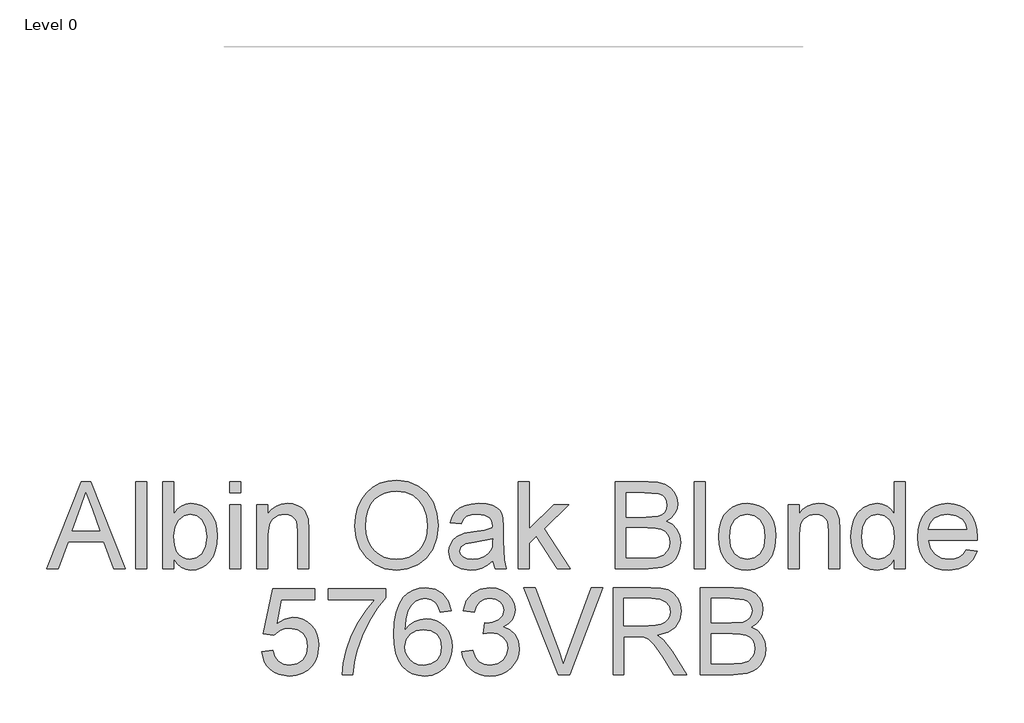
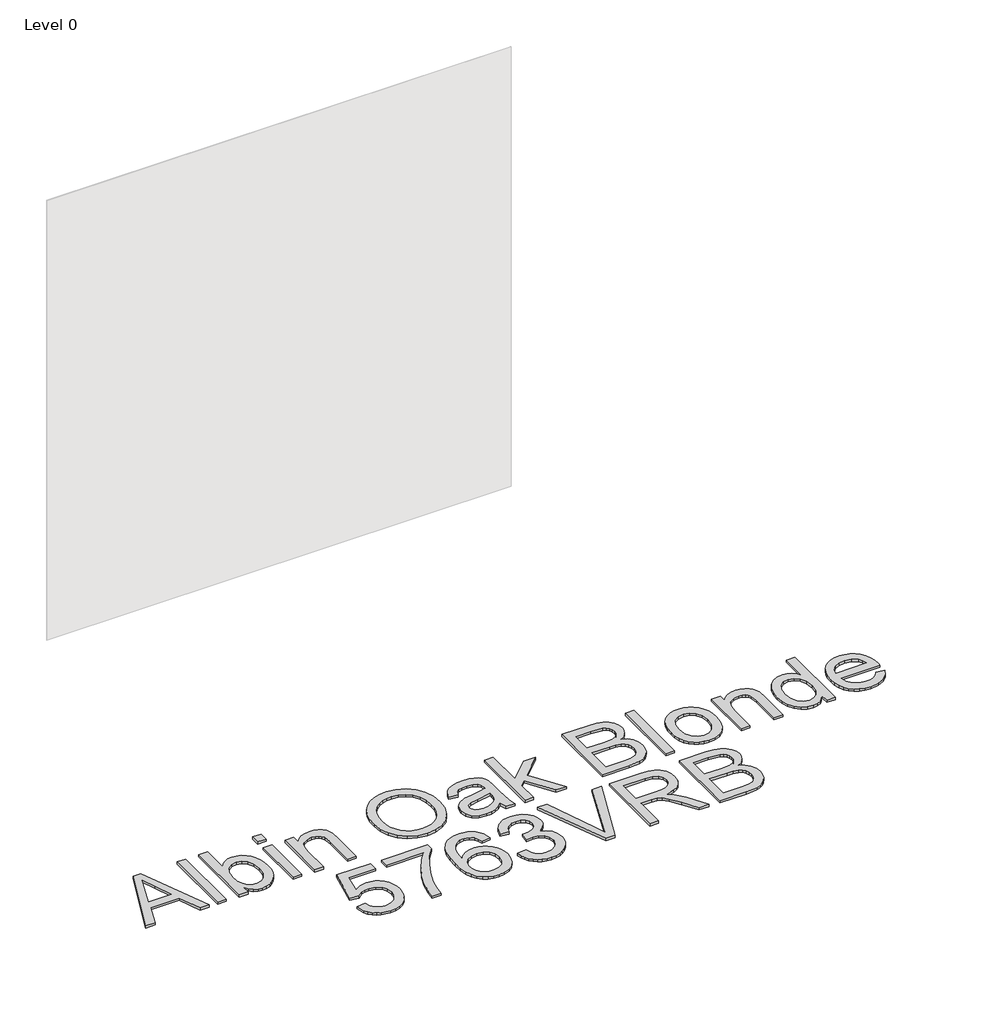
# One storey, part 5 of 43: 1 proxy.
"""IFC4 building model written with IfcOpenShell, lengths in millimetres."""

import ifcopenshell
import ifcopenshell.guid

model = None  # the IFC model being written
_history = None  # IfcOwnerHistory: only IFC2X3 demands one
_inside = {}  # id of a spatial element -> (the spatial element, [elements in it])
_under = {}  # id of a project, library or spatial element -> (it, [spatial elements below it])
_declared = {}  # id of a project -> (the project, [libraries it declares])
_typed = {}  # id of a type object -> (the type object, [elements of that type])
_made_of = {}  # id of a material, layer set ... -> (it, [elements and type objects made of it])


def new_model(schema):
    """Start an empty IFC model of exactly this schema.

    Asked for "IFC4X3", IfcOpenShell would pick the latest addendum, in which some entities
    have other attributes; the version numbers below select the first issue.
    IFC2X3 requires an IfcOwnerHistory on every rooted entity: one is made here for all.
    """
    global model, _history
    if schema == "IFC4X3":
        model = ifcopenshell.file(schema_version=(4, 3, 0, 0))
    else:
        model = ifcopenshell.file(schema=schema)
    _inside.clear()
    _under.clear()
    _declared.clear()
    _typed.clear()
    _made_of.clear()
    _history = None
    if model.schema == "IFC2X3":
        org = make("IfcOrganization", Name="unknown")
        user = make(
            "IfcPersonAndOrganization",
            ThePerson=make("IfcPerson", FamilyName="unknown"),
            TheOrganization=org,
        )
        app = make(
            "IfcApplication",
            ApplicationDeveloper=org,
            Version="unknown",
            ApplicationFullName="unknown",
            ApplicationIdentifier="unknown",
        )
        _history = make(
            "IfcOwnerHistory",
            OwningUser=user,
            OwningApplication=app,
            ChangeAction="ADDED",
            CreationDate=0,
        )
    return model


def make(cls, **values):
    """One entity of the class cls with the attributes given. An attribute that is None is left unset."""
    return model.create_entity(
        cls, **{name: value for name, value in values.items() if value is not None}
    )


def rooted(cls, **values):
    """An entity with a GlobalId (a new one), such as an element, a storey or a relation."""
    return make(cls, GlobalId=ifcopenshell.guid.new(), OwnerHistory=_history, **values)


def si_unit(unit_type, name, prefix=None):
    """IfcSIUnit, for example si_unit("LENGTHUNIT", "METRE", prefix="MILLI")."""
    return make("IfcSIUnit", UnitType=unit_type, Prefix=prefix, Name=name)


def assignment(units):
    """IfcUnitAssignment: the units of a project."""
    return None if units is None else make("IfcUnitAssignment", Units=units)


def point(xyz):
    """IfcCartesianPoint."""
    return None if xyz is None else make("IfcCartesianPoint", Coordinates=xyz)


def direction(xyz):
    """IfcDirection."""
    return None if xyz is None else make("IfcDirection", DirectionRatios=xyz)


def frame(location, z_axis=None, x_axis=None):
    """IfcAxis2Placement3D, a coordinate frame: its origin and axes. An axis left out is left unset."""
    return make(
        "IfcAxis2Placement3D",
        Location=point(location),
        Axis=direction(z_axis),
        RefDirection=direction(x_axis),
    )


def origin():
    """The frame at (0, 0, 0) with its axes left unset."""
    return frame((0.0, 0.0, 0.0))


def origin_with_axes():
    """The frame at (0, 0, 0) with the z axis (0, 0, 1) and the x axis (1, 0, 0) written out."""
    return frame((0.0, 0.0, 0.0), z_axis=(0.0, 0.0, 1.0), x_axis=(1.0, 0.0, 0.0))


def place(relative_to, where):
    """IfcLocalPlacement: puts the frame where relative to a parent placement (None: the world)."""
    return make(
        "IfcLocalPlacement", PlacementRelTo=relative_to, RelativePlacement=where
    )


def context(
    kind, dimensions, precision=None, world=None, true_north=None, identifier=None
):
    """IfcGeometricRepresentationContext, for example the 3D "Model" context."""
    return make(
        "IfcGeometricRepresentationContext",
        ContextIdentifier=identifier,
        ContextType=kind,
        CoordinateSpaceDimension=dimensions,
        Precision=precision,
        WorldCoordinateSystem=world,
        TrueNorth=true_north,
    )


def project(units=None, contexts=None):
    """IfcProject with its units and contexts."""
    return rooted(
        "IfcProject",
        Name="project",
        RepresentationContexts=contexts,
        UnitsInContext=assignment(units),
    )


def spatial(cls, under=None, at=None, **own):
    """A site, building, storey or space (cls), placed at a placement, below another one or the project."""
    s = rooted(cls, ObjectPlacement=at, **own)
    if under is not None:
        _under.setdefault(under.id(), (under, []))[1].append(s)
    return s


def polyline(points):
    """IfcPolyline through the points."""
    return make("IfcPolyline", Points=[point(p) for p in points])


def outline(outer, holes=None, kind="AREA"):
    """IfcArbitraryClosedProfileDef: a profile drawn as a closed curve; with holes, ...WithVoids."""
    if holes is None:
        return make("IfcArbitraryClosedProfileDef", ProfileType=kind, OuterCurve=outer)
    return make(
        "IfcArbitraryProfileDefWithVoids",
        ProfileType=kind,
        OuterCurve=outer,
        InnerCurves=holes,
    )


def extrude(swept, where, along, depth):
    """IfcExtrudedAreaSolid: the profile swept, set in the frame where, extruded along a direction by depth."""
    return make(
        "IfcExtrudedAreaSolid",
        SweptArea=swept,
        Position=where,
        ExtrudedDirection=direction(along),
        Depth=depth,
    )


def shape(context_of_items, identifier, shape_type, items):
    """IfcShapeRepresentation: the items that make up one representation, for example the "Body"."""
    return make(
        "IfcShapeRepresentation",
        ContextOfItems=context_of_items,
        RepresentationIdentifier=identifier,
        RepresentationType=shape_type,
        Items=items,
    )


def made_of(thing, what):
    """Note that an element or type object is made of a material, layer set ...; save() writes the relation."""
    if what is not None:
        _made_of.setdefault(what.id(), (what, []))[1].append(thing)
    return thing


def element(
    cls,
    number,
    at=None,
    inside=None,
    cuts=None,
    type_object=None,
    material=None,
    context=None,
    identifier="Body",
    shape_type=None,
    held_by="IfcProductDefinitionShape",
    body=None,
    shapes=None,
    **own,
):
    """One element of the class cls, such as IfcWall. Its Tag is "e" and its number.

    at: its placement. inside: the storey or other place that contains it. cuts: it is an
    opening in that element (IfcRelVoidsElement). A single representation is given by context,
    identifier, shape_type and body (its items); several are given by shapes. held_by: the class
    of the entity that holds the representations. save() writes the other relations.
    """
    e = rooted(cls, Tag="e%d" % number, ObjectPlacement=at, **own)
    if body is not None:
        shapes = [shape(context, identifier, shape_type, body)]
    if shapes is not None:
        e.Representation = make(held_by, Representations=shapes)
    if inside is not None:
        _inside.setdefault(inside.id(), (inside, []))[1].append(e)
    if cuts is not None:
        rooted(
            "IfcRelVoidsElement", RelatingBuildingElement=cuts, RelatedOpeningElement=e
        )
    if type_object is not None:
        _typed.setdefault(type_object.id(), (type_object, []))[1].append(e)
    return made_of(e, material)


def aggregate(whole, parts):
    """IfcRelAggregates: a whole, such as a stair, and the parts it consists of."""
    return rooted("IfcRelAggregates", RelatingObject=whole, RelatedObjects=parts)


def save(model, path):
    """Write the relations noted so far, then the file.

    IfcRelAggregates (storeys below a building ...), IfcRelContainedInSpatialStructure (elements
    in a storey), IfcRelDefinesByType, IfcRelAssociatesMaterial and IfcRelDeclares: one each for
    every whole, place, type object, material and project.
    """
    for whole, parts in _under.values():
        aggregate(whole, parts)
    for where, things in _inside.values():
        rooted(
            "IfcRelContainedInSpatialStructure",
            RelatedElements=things,
            RelatingStructure=where,
        )
    for kind, things in _typed.values():
        rooted("IfcRelDefinesByType", RelatedObjects=things, RelatingType=kind)
    for what, things in _made_of.values():
        rooted("IfcRelAssociatesMaterial", RelatedObjects=things, RelatingMaterial=what)
    for by, libraries in _declared.values():
        rooted("IfcRelDeclares", RelatingContext=by, RelatedDefinitions=libraries)
    model.write(path)


model = new_model("IFC4")

# Units and contexts
model_context = context("Model", 3, world=origin())
ifc_project = project(units=[si_unit("LENGTHUNIT", "METRE", prefix="MILLI")], contexts=[model_context])

# Site, building, storey
site = spatial("IfcSite", under=ifc_project)
building = spatial("IfcBuilding", under=site)
storey = spatial("IfcBuildingStorey", under=building, Name="Level 0", Elevation=0.0)

# Proxy
placement = place(None, origin())
element("IfcBuildingElementProxy", 1, Name="300mm Arial", ObjectType="300mm Arial", at=placement, inside=storey, context=model_context, shape_type="SweptSolid", body=[
    extrude(outline(polyline([(-6065.5864387, -37029.0303751), (-5945.2890263, -36727.6614447), (-5913.2097163, -36727.6614447), (-5792.9123039, -37029.0303751), (-5832.7171358, -37029.0303751), (-5867.2244669, -36934.8525844), (-5991.3478521, -36934.8525844), (-6025.7816069, -37029.0303751), (-6065.5864387, -37029.0303751)]), holes=[polyline([(-5977.5154891, -36897.181468), (-5880.9832536, -36897.181468), (-5908.1329448, -36823.0900342), (-5929.2493713, -36765.332561), (-5948.0113531, -36816.6153111), (-5977.5154891, -36897.181468)])]), origin_with_axes(), (0.0, 0.0, 1.0), 10.0),
    extrude(outline(polyline([(-5757.3749032, -37029.0303751), (-5757.3749032, -36727.6614447), (-5719.7037869, -36727.6614447), (-5719.7037869, -37029.0303751), (-5757.3749032, -37029.0303751)])), origin_with_axes(), (0.0, 0.0, 1.0), 10.0),
    extrude(outline(polyline([(-5625.5259961, -37029.0303751), (-5663.1971124, -37029.0303751), (-5663.1971124, -36727.6614447), (-5625.5259961, -36727.6614447), (-5625.5259961, -36839.4239948), (-5613.1375699, -36823.4901059), (-5599.148857, -36812.1087567), (-5583.5598575, -36805.2799471), (-5566.3705713, -36803.0036773), (-5546.964796, -36805.0546194), (-5528.6258786, -36811.2074458), (-5512.4022826, -36821.0758803), (-5499.3424718, -36834.2736469), (-5489.1061552, -36850.6719868), (-5481.3530422, -36870.1421414), (-5476.4694087, -36891.8747703), (-5474.8415309, -36915.060533), (-5476.5268903, -36941.8147511), (-5481.5829684, -36965.3500018), (-5490.0097654, -36985.6662849), (-5501.8072811, -37002.7636007), (-5515.9684387, -37016.3154537), (-5531.4861611, -37025.9953487), (-5548.3604484, -37031.8032857), (-5566.5913005, -37033.7392647), (-5584.3462053, -37031.2422656), (-5600.0869561, -37023.7512685), (-5613.8135531, -37011.2662733), (-5625.5259961, -36993.78728), (-5625.5259961, -37029.0303751)]), holes=[polyline([(-5625.5259961, -36916.8263666), (-5622.9508221, -36948.243489), (-5615.2253002, -36969.5070683), (-5606.0972282, -36981.1275408), (-5595.4884312, -36989.4278783), (-5583.3989091, -36994.4080808), (-5569.828662, -36996.0681484), (-5548.0868361, -36991.1753178), (-5529.5087954, -36976.4968262), (-5516.7616842, -36952.124644), (-5512.5126472, -36918.1507418), (-5516.5869403, -36883.6801988), (-5528.8098196, -36859.5839281), (-5546.8084462, -36845.4020772), (-5568.2099813, -36840.6747936), (-5589.9518072, -36845.5676241), (-5608.5298479, -36860.2461157), (-5621.2769591, -36884.1768395), (-5625.5259961, -36916.8263666)])]), origin_with_axes(), (0.0, 0.0, 1.0), 10.0),
    extrude(outline(polyline([(-5432.461525, -36765.332561), (-5432.461525, -36727.6614447), (-5394.7904087, -36727.6614447), (-5394.7904087, -36765.332561), (-5432.461525, -36765.332561)])), origin_with_axes(), (0.0, 0.0, 1.0), 10.0),
    extrude(outline(polyline([(-5432.461525, -37029.0303751), (-5432.461525, -36807.7125668), (-5394.7904087, -36807.7125668), (-5394.7904087, -37029.0303751), (-5432.461525, -37029.0303751)])), origin_with_axes(), (0.0, 0.0, 1.0), 10.0),
    extrude(outline(polyline([(-5338.2837343, -37029.0303751), (-5338.2837343, -36807.7125668), (-5300.612618, -36807.7125668), (-5300.612618, -36838.6146544), (-5287.525216, -36823.0348519), (-5271.8074577, -36811.9064216), (-5253.4593432, -36805.2293634), (-5232.4808725, -36803.0036773), (-5213.9120288, -36804.797102), (-5196.9066835, -36810.1773762), (-5182.7248326, -36818.4731152), (-5172.6264718, -36829.0129343), (-5161.3324946, -36856.7144486), (-5159.3459318, -36893.1347661), (-5159.3459318, -37029.0303751), (-5197.0170481, -37029.0303751), (-5197.0170481, -36898.2115376), (-5201.3580557, -36864.8814289), (-5207.3637292, -36854.9578121), (-5216.6987349, -36847.2598813), (-5228.6640968, -36842.3210655), (-5242.5608391, -36840.6747936), (-5264.6245618, -36844.3720076), (-5283.4325288, -36855.4636498), (-5290.9488178, -36864.5181454), (-5296.3175957, -36876.892776), (-5300.612618, -36911.6024423), (-5300.612618, -37029.0303751), (-5338.2837343, -37029.0303751)])), origin_with_axes(), (0.0, 0.0, 1.0), 10.0),
    extrude(outline(polyline([(-4999.2436875, -36882.3190354), (-4996.7328929, -36846.9701742), (-4989.200509, -36815.677212), (-4976.646536, -36788.4401488), (-4959.0709736, -36765.2589846), (-4937.5268843, -36746.7499217), (-4913.0673301, -36733.5291625), (-4885.6923112, -36725.596707), (-4855.4018274, -36722.9525551), (-4815.872907, -36727.9189621), (-4780.4274768, -36742.8181829), (-4750.9969172, -36766.6017539), (-4729.5126087, -36798.2212113), (-4716.3792214, -36836.149845), (-4712.0014257, -36878.8609447), (-4716.6091477, -36922.1422614), (-4730.4323136, -36960.604324), (-4752.7075684, -36992.2789638), (-4782.671557, -37015.1980121), (-4817.8134845, -37029.1039515), (-4855.6225566, -37033.7392647), (-4895.7584823, -37028.6165079), (-4931.4062476, -37013.2482375), (-4960.7632308, -36989.0232081), (-4982.0268101, -36957.3301743), (-4994.9394682, -36920.8638715), (-4999.2436875, -36882.3190354)]), holes=[polyline([(-4961.5725712, -36882.6869174), (-4959.6894752, -36907.6615064), (-4954.0401874, -36929.8309951), (-4944.6247075, -36949.1953836), (-4931.4430358, -36965.754672), (-4915.4194757, -36979.0168179), (-4897.4783306, -36988.4897793), (-4877.6196006, -36994.1735561), (-4855.8432858, -36996.0681484), (-4833.6944904, -36994.155162), (-4813.6012357, -36988.4162029), (-4795.5635216, -36978.851271), (-4779.5813482, -36965.4603664), (-4766.4962455, -36948.5515902), (-4757.1497435, -36928.4330435), (-4751.5418424, -36905.1047265), (-4749.672542, -36878.5666391), (-4752.8731153, -36845.2181362), (-4762.4748354, -36816.3945819), (-4778.2293819, -36792.8225431), (-4799.8884343, -36775.2285866), (-4826.017253, -36764.2749002), (-4855.1810982, -36760.6236714), (-4876.2009557, -36762.3826072), (-4895.7033, -36767.6594146), (-4913.688131, -36776.4540935), (-4930.1554488, -36788.7666441), (-4943.9004399, -36805.1902759), (-4953.7182906, -36826.3181987), (-4959.6090011, -36852.1504126), (-4961.5725712, -36882.6869174)])]), origin_with_axes(), (0.0, 0.0, 1.0), 10.0),
    extrude(outline(polyline([(-4523.6458442, -37000.7770379), (-4541.6444708, -37016.2096876), (-4560.1765263, -37026.3080484), (-4579.665075, -37031.8814606), (-4600.5331811, -37033.7392647), (-4632.0146829, -37029.2694984), (-4655.2372338, -37015.8601997), (-4669.5570405, -36995.4979313), (-4674.3303094, -36970.1692559), (-4672.5276876, -36954.5526652), (-4667.1198223, -36940.3708143), (-4658.778098, -36928.2307084), (-4648.1738995, -36918.739353), (-4621.7967605, -36906.3785179), (-4589.2024157, -36900.7131352), (-4550.6851708, -36894.7534469), (-4523.8665733, -36887.763689), (-4523.6458442, -36879.3759795), (-4526.2394122, -36862.5637723), (-4534.0201164, -36851.5641006), (-4551.4209348, -36843.3971204), (-4575.6643583, -36840.6747936), (-4598.10516, -36842.4866124), (-4613.776933, -36847.9220689), (-4624.4639049, -36857.9744444), (-4631.9503035, -36873.6370204), (-4669.6214198, -36868.9281308), (-4663.0823174, -36848.3267391), (-4653.3242475, -36832.1399313), (-4639.4367021, -36819.7607022), (-4620.5091735, -36810.5820464), (-4597.3601989, -36804.8982696), (-4570.8083159, -36803.0036773), (-4545.3416848, -36804.6775404), (-4525.1541603, -36809.6991296), (-4509.9330428, -36817.2499075), (-4499.3656325, -36826.5113368), (-4492.3574805, -36837.9616639), (-4487.8141378, -36852.0791354), (-4485.9747278, -36885.0413622), (-4485.9747278, -36931.9095284), (-4484.0617415, -36997.3557353), (-4476.5569488, -37029.0303751), (-4514.2280651, -37029.0303751), (-4523.6458442, -37000.7770379)]), holes=[polyline([(-4523.6458442, -36925.4348053), (-4584.4199498, -36936.9862999), (-4616.8303535, -36943.093141), (-4631.5088451, -36953.0259549), (-4636.6591931, -36967.5205055), (-4633.8540929, -36978.7225123), (-4625.4387922, -36987.9011681), (-4611.5972321, -36994.0264033), (-4592.5133536, -36996.0681484), (-4572.2798439, -36993.8148711), (-4554.4007789, -36987.0550395), (-4539.9062283, -36977.0946345), (-4529.8262617, -36965.2396372), (-4525.3564954, -36953.0259549), (-4523.8665733, -36936.1033831), (-4523.6458442, -36925.4348053)])]), origin_with_axes(), (0.0, 0.0, 1.0), 10.0),
    extrude(outline(polyline([(-4434.1769429, -37029.0303751), (-4434.1769429, -36727.6614447), (-4396.5058266, -36727.6614447), (-4396.5058266, -36889.6030989), (-4312.0401205, -36807.7125668), (-4259.94803, -36807.7125668), (-4345.4438057, -36890.6331685), (-4255.2391405, -37029.0303751), (-4299.2378271, -37029.0303751), (-4372.4463441, -36916.8263666), (-4396.5058266, -36940.1500851), (-4396.5058266, -37029.0303751), (-4434.1769429, -37029.0303751)])), origin_with_axes(), (0.0, 0.0, 1.0), 10.0),
    extrude(outline(polyline([(-4099.8457857, -37029.0303751), (-4099.8457857, -36727.6614447), (-3984.845874, -36727.6614447), (-3953.2172195, -36729.8779337), (-3928.5231406, -36736.5274008), (-3909.5956119, -36747.7753928), (-3895.2666082, -36763.7874566), (-3886.2443023, -36782.6230148), (-3883.2368669, -36802.3414897), (-3885.7660557, -36820.4872691), (-3893.3536218, -36837.5477966), (-3906.0547477, -36852.4746086), (-3923.9246156, -36864.2192413), (-3902.5782628, -36875.3660657), (-3886.8053223, -36892.3254257), (-3877.0656465, -36913.9752811), (-3873.8190879, -36939.1935919), (-3876.0355769, -36960.2088509), (-3882.685044, -36979.6973996), (-3892.6086608, -36996.2704835), (-3904.6475991, -37008.539348), (-3919.39047, -37017.4236982), (-3937.4258848, -37023.843239), (-3985.7287908, -37029.0303751), (-4099.8457857, -37029.0303751)]), holes=[polyline([(-4062.1746694, -36850.0925727), (-3993.3807363, -36850.0925727), (-3953.2080224, -36846.8552111), (-3939.1457332, -36841.2726018), (-3929.0381753, -36832.9124835), (-3922.9405313, -36821.9036148), (-3920.9079833, -36808.3747544), (-3922.8025755, -36795.2413672), (-3928.4863524, -36783.8002371), (-3937.7017963, -36774.8699017), (-3950.1913901, -36769.2688983), (-3998.6046606, -36765.332561), (-4062.1746694, -36765.332561), (-4062.1746694, -36850.0925727)]), polyline([(-4062.1746694, -36991.3592588), (-3984.9194504, -36991.3592588), (-3956.9604188, -36989.8877308), (-3933.3056065, -36981.6839623), (-3917.6338335, -36964.9453316), (-3913.0261115, -36953.1179254), (-3911.4902042, -36939.5614739), (-3913.292826, -36923.8161245), (-3918.7006913, -36910.2780671), (-3928.1460615, -36899.6922627), (-3942.061198, -36892.8036723), (-3961.7704759, -36889.0236848), (-3988.5982704, -36887.763689), (-4062.1746694, -36887.763689), (-4062.1746694, -36991.3592588)])]), origin_with_axes(), (0.0, 0.0, 1.0), 10.0),
    extrude(outline(polyline([(-3826.7301925, -37029.0303751), (-3826.7301925, -36727.6614447), (-3789.0590762, -36727.6614447), (-3789.0590762, -37029.0303751), (-3826.7301925, -37029.0303751)])), origin_with_axes(), (0.0, 0.0, 1.0), 10.0),
    extrude(outline(polyline([(-3741.9701808, -36918.371471), (-3739.9330343, -36889.708865), (-3733.8215946, -36865.0101876), (-3723.6358619, -36844.2754386), (-3709.375836, -36827.5046182), (-3695.0192412, -36816.7854565), (-3679.1727242, -36809.1289125), (-3661.8362852, -36804.5349861), (-3643.0099241, -36803.0036773), (-3622.2268906, -36804.8683791), (-3603.4350185, -36810.4624847), (-3586.6343076, -36819.7859941), (-3571.824758, -36832.8389071), (-3559.7375352, -36849.1797655), (-3551.1038047, -36868.3671108), (-3545.9235663, -36890.400943), (-3544.1968202, -36915.2812622), (-3547.2502408, -36953.3386546), (-3556.4105024, -36982.3093617), (-3571.4108908, -37004.0052024), (-3591.9846914, -37020.2379954), (-3616.4212529, -37030.3639474), (-3643.0099241, -37033.7392647), (-3664.0964602, -37031.8814606), (-3683.0630763, -37026.3080484), (-3699.9097724, -37017.019028), (-3714.6365486, -37004.0143994), (-3726.5950127, -36987.514892), (-3735.1367727, -36967.7412347), (-3740.2618288, -36944.6934277), (-3741.9701808, -36918.371471)]), holes=[polyline([(-3704.2990645, -36918.2978946), (-3699.9396628, -36952.3913585), (-3686.8614579, -36976.6807672), (-3667.1797712, -36991.2213031), (-3643.0099241, -36996.0681484), (-3618.9504416, -36991.1937119), (-3599.3055431, -36976.5704026), (-3586.2273381, -36951.9590971), (-3581.8679365, -36917.1206722), (-3586.2549293, -36884.0204897), (-3599.4159077, -36860.0621747), (-3619.0883974, -36845.5216389), (-3643.0099241, -36840.6747936), (-3667.1797712, -36845.5032448), (-3686.8614579, -36859.9885983), (-3699.9396628, -36884.2228248), (-3704.2990645, -36918.2978946)])]), origin_with_axes(), (0.0, 0.0, 1.0), 10.0),
    extrude(outline(polyline([(-3501.8168143, -37029.0303751), (-3501.8168143, -36807.7125668), (-3464.145698, -36807.7125668), (-3464.145698, -36838.6146544), (-3451.0582961, -36823.0348519), (-3435.3405378, -36811.9064216), (-3416.9924233, -36805.2293634), (-3396.0139525, -36803.0036773), (-3377.4451088, -36804.797102), (-3360.4397636, -36810.1773762), (-3346.2579127, -36818.4731152), (-3336.1595519, -36829.0129343), (-3324.8655747, -36856.7144486), (-3322.8790119, -36893.1347661), (-3322.8790119, -37029.0303751), (-3360.5501282, -37029.0303751), (-3360.5501282, -36898.2115376), (-3364.8911357, -36864.8814289), (-3370.8968093, -36854.9578121), (-3380.2318149, -36847.2598813), (-3392.1971768, -36842.3210655), (-3406.0939192, -36840.6747936), (-3428.1576419, -36844.3720076), (-3446.9656089, -36855.4636498), (-3454.4818979, -36864.5181454), (-3459.8506757, -36876.892776), (-3464.145698, -36911.6024423), (-3464.145698, -37029.0303751), (-3501.8168143, -37029.0303751)])), origin_with_axes(), (0.0, 0.0, 1.0), 10.0),
    extrude(outline(polyline([(-3134.5234304, -37029.0303751), (-3134.5234304, -36993.4929744), (-3145.794415, -37011.1007264), (-3159.4474355, -37023.6776921), (-3175.482492, -37031.2238715), (-3193.8995844, -37033.7392647), (-3218.2533725, -37030.0972329), (-3240.5470214, -37019.1711377), (-3259.4193677, -37001.724334), (-3273.5092481, -36978.5201772), (-3282.2832337, -36950.4967662), (-3285.2078956, -36918.5922002), (-3282.51316, -36887.0831073), (-3274.4289531, -36858.627435), (-3260.9644721, -36834.843864), (-3242.128914, -36817.3510751), (-3219.3478214, -36806.5905267), (-3194.0467372, -36803.0036773), (-3175.6158492, -36805.5696542), (-3159.3186768, -36813.2675849), (-3145.5047079, -36825.0673999), (-3134.5234304, -36839.9390296), (-3134.5234304, -36727.6614447), (-3096.8523141, -36727.6614447), (-3096.8523141, -37029.0303751), (-3134.5234304, -37029.0303751)]), holes=[polyline([(-3247.5367793, -36918.4450474), (-3243.2877422, -36952.5201172), (-3230.5406311, -36976.7543436), (-3212.0177726, -36991.2396972), (-3190.4414936, -36996.0681484), (-3168.8744117, -36991.4604264), (-3150.8206027, -36977.6372604), (-3138.5977235, -36954.3411331), (-3134.5234304, -36921.3145269), (-3138.6712999, -36885.2069091), (-3151.1149083, -36860.1725393), (-3169.6285698, -36845.54923), (-3191.986598, -36840.6747936), (-3213.7836062, -36845.356092), (-3231.6442771, -36859.3999871), (-3243.5636537, -36883.523849), (-3247.5367793, -36918.4450474)])]), origin_with_axes(), (0.0, 0.0, 1.0), 10.0),
    extrude(outline(polyline([(-2885.3937432, -36963.1059216), (-2848.4583909, -36967.8148111), (-2861.7665221, -36995.6450841), (-2883.0025103, -37016.4488109), (-2911.6881088, -37029.4166512), (-2947.3450712, -37033.7392647), (-2970.7193735, -37031.8745628), (-2991.5460929, -37026.2804572), (-3009.8252296, -37016.9569479), (-3025.5567834, -37003.9040349), (-3038.2073255, -36987.4850016), (-3047.243427, -36968.0631315), (-3052.6650879, -36945.6384246), (-3054.4723082, -36920.2108809), (-3052.6466938, -36893.9211139), (-3047.1698506, -36870.7491467), (-3038.0417786, -36850.6949794), (-3025.2624778, -36833.7586121), (-3009.5723107, -36820.3033281), (-2991.7116398, -36810.692411), (-2971.6804652, -36804.9258607), (-2949.4787868, -36803.0036773), (-2927.992179, -36804.9212622), (-2908.5611119, -36810.6740169), (-2891.1855854, -36820.2619414), (-2875.8655996, -36833.6850357), (-2863.359911, -36850.5846148), (-2854.4272763, -36870.6019939), (-2849.0676955, -36893.7371729), (-2847.2811685, -36919.9901518), (-2847.5018977, -36930.1436948), (-3016.8011919, -36930.1436948), (-3010.2804835, -36958.3418497), (-2995.1329424, -36979.0720002), (-2973.2715548, -36991.8191113), (-2946.6093072, -36996.0681484), (-2926.5597385, -36994.0999797), (-2909.6739549, -36988.1954737), (-2895.9519565, -36977.9867483), (-2885.3937432, -36963.1059216)]), holes=[polyline([(-3016.8011919, -36892.4725785), (-2884.9522848, -36892.4725785), (-2890.0474505, -36872.5701626), (-2900.0354466, -36858.3331294), (-2921.9980017, -36845.0893775), (-2949.6259396, -36840.6747936), (-2975.0189943, -36844.1972637), (-2996.0158592, -36854.764674), (-3010.6115773, -36871.2365903), (-3016.8011919, -36892.4725785)])]), origin_with_axes(), (0.0, 0.0, 1.0), 10.0),
    extrude(outline(polyline([(-5321.8026209, -37314.9037065), (-5284.1315046, -37310.194817), (-5277.2153231, -37332.8103626), (-5265.1487936, -37349.0063675), (-5247.9870986, -37358.7460433), (-5225.7854201, -37361.9926019), (-5198.7828817, -37357.4768504), (-5178.549372, -37343.9295959), (-5165.9126254, -37322.914337), (-5161.7003766, -37295.994572), (-5165.645911, -37270.6475025), (-5177.4825142, -37251.2601213), (-5197.3021567, -37238.9544686), (-5225.196809, -37234.8525844), (-5243.4713471, -37236.4896592), (-5258.2694003, -37241.4008839), (-5279.422615, -37258.397032), (-5317.0937313, -37253.6881425), (-5284.1315046, -37098.2947877), (-5138.1559289, -37098.2947877), (-5138.1559289, -37135.9659041), (-5253.6708754, -37135.9659041), (-5269.7841068, -37218.9600822), (-5242.8735388, -37202.6261216), (-5214.6753839, -37197.181468), (-5196.3295686, -37198.8691267), (-5179.478274, -37203.9321027), (-5164.1215, -37212.3703959), (-5150.2592465, -37224.1840065), (-5138.7836275, -37238.650966), (-5130.5867568, -37255.0493059), (-5125.6686344, -37273.3790263), (-5124.0292603, -37293.6401272), (-5129.9337663, -37331.3112435), (-5137.3143988, -37348.1050566), (-5147.6472844, -37363.5377063), (-5163.3006633, -37379.3428365), (-5181.5660043, -37390.6322152), (-5202.4433076, -37397.4058424), (-5225.9325729, -37399.6637182), (-5262.9323046, -37393.8603797), (-5278.6109754, -37386.6062066), (-5292.4088495, -37376.4503643), (-5303.889067, -37363.8986905), (-5312.6147681, -37349.4570229), (-5321.8026209, -37314.9037065)])), origin_with_axes(), (0.0, 0.0, 1.0), 10.0),
    extrude(outline(polyline([(-5091.0670335, -37135.9659041), (-5091.0670335, -37098.2947877), (-4893.2936729, -37098.2947877), (-4893.2936729, -37128.7554169), (-4921.4826308, -37164.4307734), (-4949.3956772, -37209.7998205), (-4974.0161797, -37260.7238857), (-4992.327506, -37313.0642965), (-5001.3038267, -37352.2253349), (-5006.3070218, -37394.9548287), (-5043.9781381, -37394.9548287), (-5039.903845, -37356.1248841), (-5029.0053409, -37309.9740878), (-5011.5769314, -37261.0549795), (-4987.9129221, -37213.9200988), (-4960.2849842, -37171.3101667), (-4930.9647892, -37135.9659041), (-5091.0670335, -37135.9659041)])), origin_with_axes(), (0.0, 0.0, 1.0), 10.0),
    extrude(outline(polyline([(-4667.2669751, -37173.6370204), (-4704.9380914, -37178.3459099), (-4711.0081443, -37159.6758986), (-4719.2119128, -37146.9287875), (-4736.3000315, -37135.1749578), (-4756.9566055, -37131.2570145), (-4774.4677885, -37133.5378829), (-4790.9489018, -37140.380488), (-4805.1031616, -37154.7922652), (-4816.6638533, -37174.6303017), (-4824.4721487, -37202.6905009), (-4827.3692194, -37241.7687659), (-4812.2584664, -37224.1380212), (-4794.1494752, -37211.7128069), (-4774.0539212, -37204.3459699), (-4752.9834799, -37201.8903576), (-4734.8836858, -37203.5688192), (-4718.1818432, -37208.604204), (-4702.8779522, -37216.996512), (-4688.9720128, -37228.7457432), (-4677.4159196, -37243.1529219), (-4669.1615673, -37259.5190721), (-4664.208956, -37277.844194), (-4662.5580855, -37298.1282875), (-4665.6666884, -37325.1032348), (-4674.992497, -37350.1100134), (-4689.7629591, -37371.3184105), (-4709.2055225, -37386.898213), (-4732.4372705, -37396.4723419), (-4758.5752863, -37399.6637182), (-4781.0321828, -37397.5483967), (-4801.3139771, -37391.2024323), (-4819.420669, -37380.6258249), (-4835.3522587, -37365.8185746), (-4848.3407924, -37346.155282), (-4857.6183164, -37321.0105476), (-4863.1848309, -37290.3843715), (-4865.0403357, -37254.2767537), (-4862.9801965, -37213.7959387), (-4856.799779, -37179.2472208), (-4846.4990831, -37150.6306001), (-4832.0781089, -37127.9460766), (-4816.4477226, -37112.9134985), (-4798.3249358, -37102.1759428), (-4777.7097485, -37095.7334094), (-4754.6021607, -37093.5858982), (-4721.5479635, -37098.901793), (-4695.0788539, -37114.8494775), (-4676.5376013, -37140.1781529), (-4667.2669751, -37173.6370204)]), holes=[polyline([(-4827.3692194, -37297.5396763), (-4825.1895185, -37314.2323219), (-4818.6504161, -37330.1708093), (-4808.496873, -37343.8744136), (-4795.4738504, -37353.8624098), (-4779.7560921, -37359.9600539), (-4761.5183422, -37361.9926019), (-4736.6587164, -37357.780353), (-4717.1149854, -37345.1436065), (-4704.4506477, -37325.2779788), (-4700.2292018, -37299.3790863), (-4704.3954654, -37274.5194605), (-4716.8942562, -37255.5643407), (-4736.769081, -37243.5621906), (-4763.0634466, -37239.5614739), (-4787.8862842, -37243.5621906), (-4808.6440258, -37255.5643407), (-4822.687921, -37274.059608), (-4827.3692194, -37297.5396763)])]), origin_with_axes(), (0.0, 0.0, 1.0), 10.0),
    extrude(outline(polyline([(-4629.5958588, -37314.9037065), (-4591.9247425, -37310.194817), (-4583.4910477, -37333.8680234), (-4571.1394097, -37349.852496), (-4554.2628232, -37358.9575754), (-4532.2542828, -37361.9926019), (-4506.4289668, -37357.8171412), (-4486.4897626, -37345.2907593), (-4473.7426515, -37326.602354), (-4469.4936145, -37303.940823), (-4473.7058633, -37282.4289234), (-4486.3426098, -37264.9821198), (-4505.4724736, -37253.4214281), (-4529.1640741, -37249.5678642), (-4555.5780013, -37253.6881425), (-4551.3841466, -37216.0170262), (-4545.3508819, -37216.4584846), (-4522.7813215, -37213.7545519), (-4502.602994, -37205.6427539), (-4488.3659608, -37191.9207555), (-4483.6202831, -37172.3862216), (-4487.0599797, -37156.1166403), (-4497.3790697, -37142.9188738), (-4513.1244191, -37134.1724793), (-4532.842894, -37131.2570145), (-4552.5981572, -37134.2000705), (-4568.7481768, -37143.0292384), (-4580.5387947, -37157.7445182), (-4587.2158529, -37178.3459099), (-4624.8869692, -37173.6370204), (-4613.7953271, -37139.8102709), (-4594.058458, -37114.5551719), (-4567.0559196, -37098.8282166), (-4534.1672692, -37093.5858982), (-4510.4848658, -37096.1702692), (-4488.7338428, -37103.9233823), (-4470.3949253, -37116.1554586), (-4456.9488384, -37132.1767195), (-4448.6990847, -37150.6351986), (-4445.9491668, -37170.1789296), (-4448.5611289, -37188.3890884), (-4456.3970154, -37204.9069899), (-4469.3464617, -37218.9784763), (-4487.299103, -37229.8493892), (-4463.7178671, -37239.3775329), (-4446.2434724, -37255.6011289), (-4435.4277417, -37277.6372604), (-4431.8224982, -37304.6030106), (-4433.6251199, -37323.7144803), (-4439.0329853, -37341.3176338), (-4448.0460941, -37357.412471), (-4460.6644466, -37371.9989922), (-4476.0373154, -37384.1023098), (-4493.3139736, -37392.7475367), (-4512.4944212, -37397.9346728), (-4533.578658, -37399.6637182), (-4552.6349454, -37398.1875917), (-4569.9989755, -37393.7592122), (-4585.6707485, -37386.3785796), (-4599.6502644, -37376.0456941), (-4611.3719044, -37363.3675608), (-4620.2700502, -37348.9511852), (-4626.3447016, -37332.796567), (-4629.5958588, -37314.9037065)])), origin_with_axes(), (0.0, 0.0, 1.0), 10.0),
    extrude(outline(polyline([(-4295.7061599, -37394.9548287), (-4415.6356904, -37093.5858982), (-4375.3158237, -37093.5858982), (-4295.0439723, -37310.7098518), (-4278.7835882, -37359.6381571), (-4262.7439332, -37310.7098518), (-4182.2513526, -37093.5858982), (-4141.931486, -37093.5858982), (-4256.7842448, -37394.9548287), (-4295.7061599, -37394.9548287)])), origin_with_axes(), (0.0, 0.0, 1.0), 10.0),
    extrude(outline(polyline([(-4106.90912, -37394.9548287), (-4106.90912, -37093.5858982), (-3977.0467757, -37093.5858982), (-3942.1439714, -37095.6184462), (-3916.7509167, -37101.7160903), (-3898.1912701, -37112.9732794), (-3883.7886899, -37130.4844623), (-3874.5456548, -37152.1986971), (-3871.4646431, -37176.0650415), (-3876.5690058, -37205.7531185), (-3891.8820938, -37230.364424), (-3903.481873, -37240.3938069), (-3917.8637597, -37248.4090359), (-3954.973856, -37258.397032), (-3933.5631239, -37274.5102634), (-3903.0289183, -37313.2850257), (-3852.7762377, -37394.9548287), (-3896.5541952, -37394.9548287), (-3935.7704159, -37332.4884659), (-3964.0973295, -37291.1385296), (-3983.9997454, -37271.6039957), (-4001.9155986, -37264.4302968), (-4023.7677891, -37263.1059216), (-4069.2380037, -37263.1059216), (-4069.2380037, -37394.9548287), (-4106.90912, -37394.9548287)]), holes=[polyline([(-4069.2380037, -37225.4348053), (-3984.9194504, -37225.4348053), (-3960.7036181, -37224.101233), (-3941.9140452, -37220.1005163), (-3927.7689825, -37213.1659407), (-3917.4866807, -37203.0307918), (-3911.2234897, -37190.7711243), (-3909.1357594, -37177.4629931), (-3913.118082, -37159.0872874), (-3925.0650498, -37144.2800371), (-3945.6204563, -37134.5127702), (-3975.4280949, -37131.2570145), (-4069.2380037, -37131.2570145), (-4069.2380037, -37225.4348053)])]), origin_with_axes(), (0.0, 0.0, 1.0), 10.0),
    extrude(outline(polyline([(-3805.5401896, -37394.9548287), (-3805.5401896, -37093.5858982), (-3690.5402779, -37093.5858982), (-3658.9116233, -37095.8023872), (-3634.2175444, -37102.4518543), (-3615.2900158, -37113.6998463), (-3600.961012, -37129.7119101), (-3591.9387061, -37148.5474683), (-3588.9312708, -37168.2659432), (-3591.4604595, -37186.4117226), (-3599.0480257, -37203.4722502), (-3611.7491516, -37218.3990621), (-3629.6190195, -37230.1436948), (-3608.2726667, -37241.2905193), (-3592.4997262, -37258.2498792), (-3582.7600503, -37279.8997347), (-3579.5134917, -37305.1180454), (-3581.7299807, -37326.1333044), (-3588.3794478, -37345.6218531), (-3598.3030646, -37362.194937), (-3610.3420029, -37374.4638015), (-3625.0848739, -37383.3481517), (-3643.1202887, -37389.7676925), (-3691.4231947, -37394.9548287), (-3805.5401896, -37394.9548287)]), holes=[polyline([(-3767.8690733, -37216.0170262), (-3699.0751402, -37216.0170262), (-3658.9024263, -37212.7796646), (-3644.840137, -37207.1970554), (-3634.7325792, -37198.836937), (-3628.6349351, -37187.8280683), (-3626.6023871, -37174.2992079), (-3628.4969794, -37161.1658207), (-3634.1807562, -37149.7246907), (-3643.3962002, -37140.7943552), (-3655.8857939, -37135.1933519), (-3704.2990645, -37131.2570145), (-3767.8690733, -37131.2570145), (-3767.8690733, -37216.0170262)]), polyline([(-3767.8690733, -37357.2837124), (-3690.6138543, -37357.2837124), (-3662.6548226, -37355.8121844), (-3639.0000103, -37347.6084159), (-3623.3282374, -37330.8697851), (-3618.7205154, -37319.042379), (-3617.184608, -37305.4859274), (-3618.9872298, -37289.740578), (-3624.3950951, -37276.2025206), (-3633.8404654, -37265.6167162), (-3647.7556018, -37258.7281258), (-3667.4648797, -37254.9481383), (-3694.2926742, -37253.6881425), (-3767.8690733, -37253.6881425), (-3767.8690733, -37357.2837124)])]), origin_with_axes(), (0.0, 0.0, 1.0), 10.0),
])

save(model, "model.ifc")
